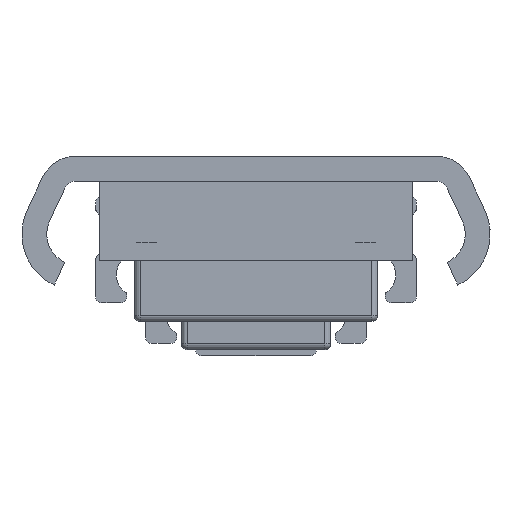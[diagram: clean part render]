
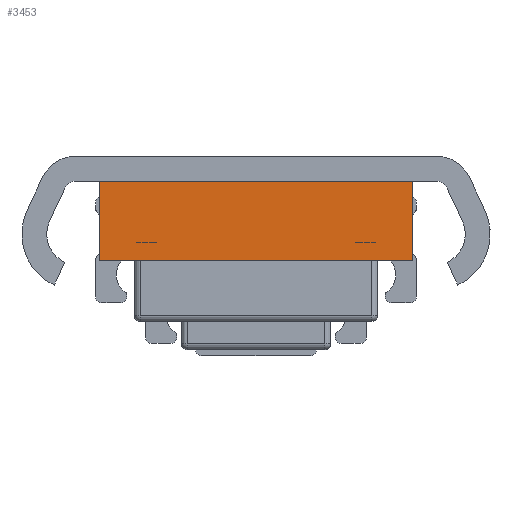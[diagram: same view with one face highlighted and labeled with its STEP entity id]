
A CAD part, left-side view. The second image highlights one B-rep face of the part: STEP entity #3453.
In plain terms, the highlighted planar face has unit normal (-1, 0, 0).
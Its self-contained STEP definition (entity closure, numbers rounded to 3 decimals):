
#93=PLANE('',#3851);
#313=LINE('',#5905,#575);
#314=LINE('',#5907,#576);
#315=LINE('',#5909,#577);
#316=LINE('',#5910,#578);
#575=VECTOR('',#4827,12.7);
#576=VECTOR('',#4828,50.);
#577=VECTOR('',#4829,12.7);
#578=VECTOR('',#4830,50.);
#835=FACE_OUTER_BOUND('',#1083,.T.);
#1083=EDGE_LOOP('',(#2973,#2974,#2975,#2976));
#1649=VERTEX_POINT('',#5903);
#1650=VERTEX_POINT('',#5904);
#1651=VERTEX_POINT('',#5906);
#1652=VERTEX_POINT('',#5908);
#2093=EDGE_CURVE('',#1649,#1650,#313,.T.);
#2094=EDGE_CURVE('',#1651,#1650,#314,.T.);
#2095=EDGE_CURVE('',#1652,#1651,#315,.T.);
#2096=EDGE_CURVE('',#1652,#1649,#316,.T.);
#2973=ORIENTED_EDGE('',*,*,#2093,.T.);
#2974=ORIENTED_EDGE('',*,*,#2094,.F.);
#2975=ORIENTED_EDGE('',*,*,#2095,.F.);
#2976=ORIENTED_EDGE('',*,*,#2096,.T.);
#3453=ADVANCED_FACE('',(#835),#93,.F.);
#3851=AXIS2_PLACEMENT_3D('',#5902,#4825,#4826);
#4825=DIRECTION('center_axis',(1.,0.,0.));
#4826=DIRECTION('ref_axis',(0.,0.,-1.));
#4827=DIRECTION('',(0.,0.,1.));
#4828=DIRECTION('',(0.,-1.,0.));
#4829=DIRECTION('',(0.,0.,1.));
#4830=DIRECTION('',(0.,-1.,0.));
#5902=CARTESIAN_POINT('Origin',(-448.85,25.,-16.7));
#5903=CARTESIAN_POINT('',(-448.85,-25.,-16.7));
#5904=CARTESIAN_POINT('',(-448.85,-25.,-4.));
#5905=CARTESIAN_POINT('',(-448.85,-25.,-16.7));
#5906=CARTESIAN_POINT('',(-448.85,25.,-4.));
#5907=CARTESIAN_POINT('',(-448.85,25.,-4.));
#5908=CARTESIAN_POINT('',(-448.85,25.,-16.7));
#5909=CARTESIAN_POINT('',(-448.85,25.,-16.7));
#5910=CARTESIAN_POINT('',(-448.85,25.,-16.7));
